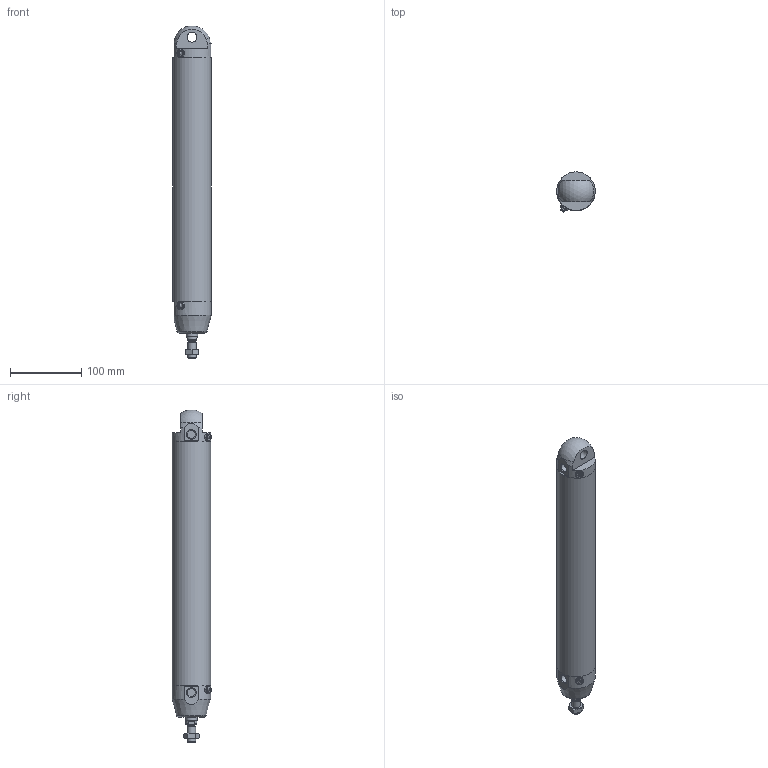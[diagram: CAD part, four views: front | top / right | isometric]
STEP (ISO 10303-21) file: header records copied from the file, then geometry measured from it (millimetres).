
FILE_DESCRIPTION(/* description */ (''),/* implementation_level */ '2;1');
FILE_NAME(/* name */ 'I:\Area Tecnica\Documenti\A-Manieri\_Inventor\12X\12X#A_###_####_#_#\12XBA_050_0300_#_#.stp',/* time_stamp */ '2015-04-24T09:19:05+02:00',/* author */ ('maniean1'),/* organization */ ('Pneumax S.p.A.'),/* preprocessor_version */ 'ST-DEVELOPER v15.2',/* originating_system */ 'Autodesk Inventor 2014',/* authorisation */ '');
FILE_SCHEMA (('AUTOMOTIVE_DESIGN { 1 0 10303 214 3 1 1 }'));
Length unit declared in the file: millimetre
Products named in the file (6): C1250_619-0300; 12X50_614; 12X50_607; S12X50_0300; 12X_50_11; 12XBA_050_0300_#_#
Bounding box: 54 x 55.88 x 466.83 mm (x, y, z)
Volume: 413194.6 mm3; surface area: 167096 mm2
Topology: 5 solids, 5 shells, 77 faces, 168 edges, 109 vertices
Faces by surface type: plane 43, cylinder 18, cone 12, torus 3, sphere 1
Full cylindrical faces by diameter (mm): 5 x2, 10.2 x1, 11 x2, 11.4 x2, 12 x2, 14 x2, 15.6 x1, 16 x1, 50 x2, 54 x3
Entity records: 2072 total; most frequent: CARTESIAN_POINT 428, DIRECTION 346, ORIENTED_EDGE 260, AXIS2_PLACEMENT_3D 152, EDGE_CURVE 130, EDGE_LOOP 122, VERTEX_POINT 100, ADVANCED_FACE 77
